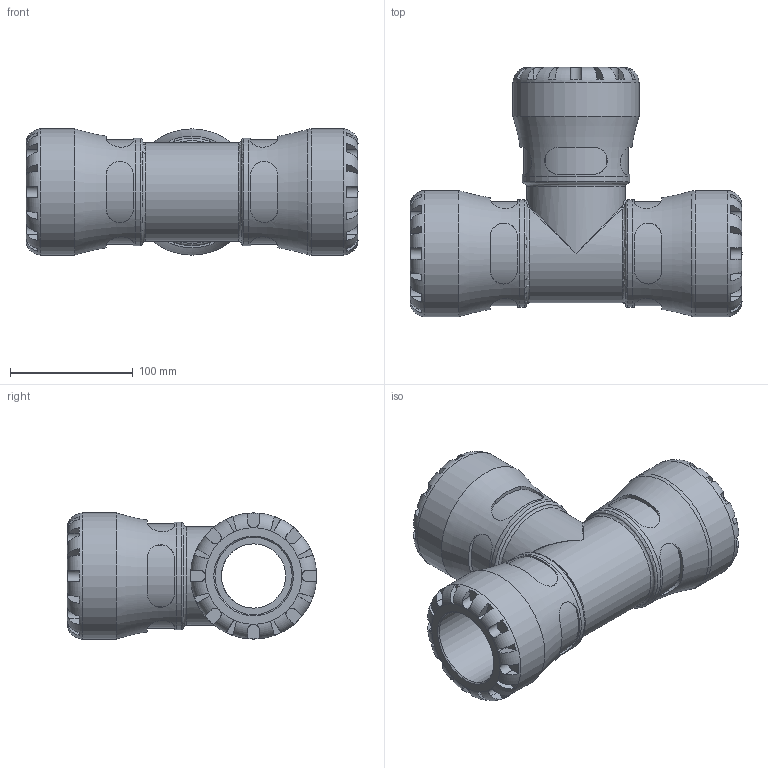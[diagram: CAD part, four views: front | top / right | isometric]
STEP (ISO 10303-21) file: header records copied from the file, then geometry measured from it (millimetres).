
FILE_DESCRIPTION(/* description */ ('PLASSON G-PLASS TEE 63X63X63'),/* implementation_level */ '2;1');
FILE_NAME(/* name */ 'C:\Dropbox\KIMPROJECTS-Inventor 2019\99-16-3568-Processing\S1\150400\stp\150400063.stp',/* time_stamp */ '2023-10-17T19:24:21+03:00',/* author */ ('KIM'),/* organization */ (''),/* preprocessor_version */ 'ST-DEVELOPER v17.2',/* originating_system */ 'Autodesk Inventor 2019',/* authorisation */ '');
FILE_SCHEMA (('AUTOMOTIVE_DESIGN { 1 0 10303 214 3 1 1 }'));
Length unit declared in the file: millimetre
Products named in the file (1): 150400063
Bounding box: 271 x 203.5 x 103 mm (x, y, z)
Volume: 1411951.3 mm3; surface area: 208846.9 mm2
Topology: 1 solids, 1 shells, 304 faces, 811 edges, 517 vertices
Faces by surface type: plane 182, cylinder 97, torus 13, bspline 10, cone 2
Full cylindrical faces by diameter (mm): 52.5 x2, 63 x3, 80.34 x1, 87.55 x3, 103 x3
Entity records: 12927 total; most frequent: CARTESIAN_POINT 5275, ORIENTED_EDGE 1614, DIRECTION 1516, EDGE_CURVE 807, AXIS2_PLACEMENT_3D 627, VERTEX_POINT 517, CIRCLE 321, EDGE_LOOP 320
